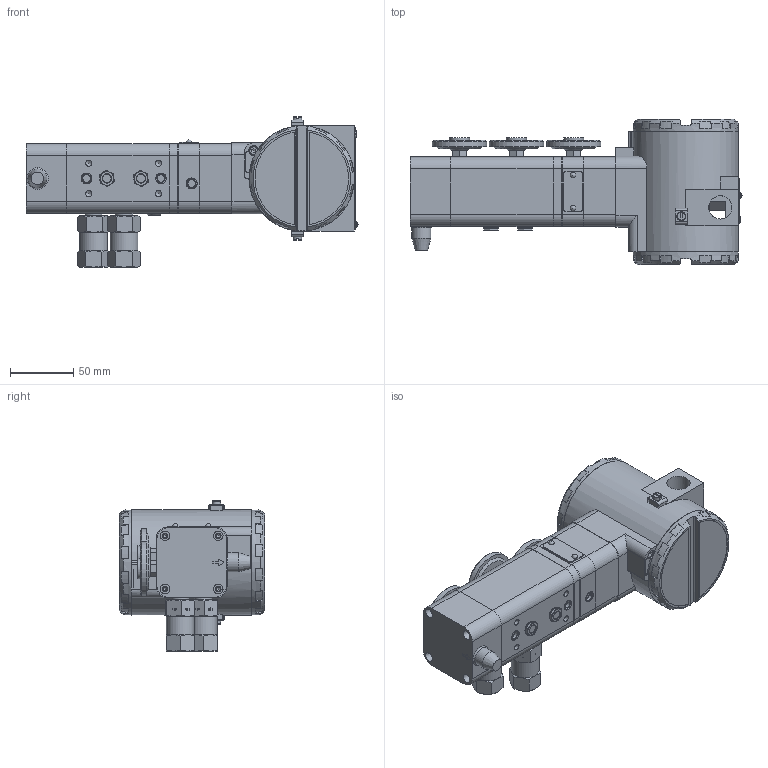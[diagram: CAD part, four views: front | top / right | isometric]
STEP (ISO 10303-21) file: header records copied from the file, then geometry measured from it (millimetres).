
FILE_DESCRIPTION(/* description */ (''),/* implementation_level */ '2;1');
FILE_NAME(/* name */ 'F:\Area\Desenvolvimento_2\Projects\Sensor\projetos\Natasha\Desenho FY\Steps\FY30X_3MAN_SA.stp',/* time_stamp */ '2023-03-02T09:45:58-03:00',/* author */ ('inventor02'),/* organization */ (''),/* preprocessor_version */ 'ST-DEVELOPER v17',/* originating_system */ 'Autodesk Inventor 2019',/* authorisation */ '');
FILE_SCHEMA (('CONFIG_CONTROL_DESIGN'));
Products named in the file (55): Subconjunto FY completo; Subconjunto transdutor; Subconjunto bloco; Bloco usinado; Subconjunto filtro ar 1-4 npt; Conexao traseira 1-4 npt; Elemento filtrante; Conexao frontal 1-4 npt; O-ring da conexao 1-4 npt; Subconjunto vant plug; Vent plug; Filtro vant plug; Subconjunto sealing plugs.0007; Sealing plugs; Sealing plugs sphere; DIN 913 - M12 x 16; Subconjunto do diafragma; Junta superiror diafragma; arruela superior diafragma; Distanciador uniao diafragma; Junta inferior diafragma; Eixo do diafragma; Intermediaria; Subconjunto base; Base usinada; Restricao; Subconjunto sinterizado; Bucha do sinterizado; Sinterizado retificado; Plaqueta sem texto; Rebite U; MANÔMETRO; Subconjunto tampa ligacao; Tampa de ligacao usinada; Subconjunto da Tampa do Hall; Tampa do Hall; Subconjunto transmissor; Subconjunto carcaca transmissor; Carcaca usinada; Chapa aterramento externo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
Assembly tree (68 placements, depth 5):
  Subconjunto FY completo
    Subconjunto transdutor
      Subconjunto bloco
        Bloco usinado
        Subconjunto sinterizado  x2
          Bucha do sinterizado
          Sinterizado retificado
        Subconjunto filtro ar 1-4 npt  x2
          Conexao traseira 1-4 npt
          Elemento filtrante
          Conexao frontal 1-4 npt
          O-ring da conexao 1-4 npt
        Subconjunto vant plug  x2
          Vent plug
          Filtro vant plug
        Subconjunto sealing plugs.0007  x2
          Sealing plugs
          Sealing plugs sphere
        MANÔMETRO  x2
        DIN 913 - M12 x 16
      Subconjunto do diafragma
        Junta superiror diafragma
        arruela superior diafragma
        Distanciador uniao diafragma
        Junta inferior diafragma
        Eixo do diafragma
        Intermediaria
      Subconjunto base
        Base usinada
        Restricao
        Subconjunto sinterizado  x2
          Bucha do sinterizado
          Sinterizado retificado
        Plaqueta sem texto
        Rebite U  x2
        MANÔMETRO
      Subconjunto tampa ligacao
        Tampa de ligacao usinada
      Subconjunto da Tampa do Hall
        Tampa do Hall
    Subconjunto transmissor
      Subconjunto carcaca transmissor
        Carcaca usinada
        Chapa aterramento externo  x2
        ISO 1207 - M4 x 8  x2
        Tampao Z-S  x2
      Subconjunto tampa com visor
        Tampa macho com visor
        VIDRO DO VISOR
        Trava do vidro da tampa com visor
      Subconjunto tampa sem visor
        Tampa macho sem visor_2
      Subconjunto display
      DIN 912 - M4 x 8  x2
      DIN 912 - M4 x 6
      DIN 84 - M3 x 4
      Rebite da Plaqueta
      Subconjunto plaqueta
        Plaqueta transmissor
        Rebite da Plaqueta
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Bounding box: 261.91 x 114.5 x 118.65 mm (x, y, z)
Volume: 794222 mm3; surface area: 297596.6 mm2
Topology: 60 solids, 60 shells, 2700 faces, 7282 edges, 4970 vertices
Faces by surface type: plane 1181, bspline 658, cylinder 537, cone 220, torus 90, sphere 14
Full cylindrical faces by diameter (mm): 1.3 x1, 2 x2, 2.1 x5, 2.11 x2, 2.459 x5, 2.5 x4, 2.54 x4, 2.7 x4, 2.729 x1, 2.8 x2, 3 x3, 3.1 x1, 3.2 x24, 3.242 x16, 3.5 x3, 3.57 x2, 3.6 x1, 3.65 x1, 3.8 x1, 4 x16, 4.2 x1, 4.3 x18, 4.4 x2, 4.5 x9, 4.917 x4, 5.2 x2, 5.3 x4, 5.5 x4, 5.9 x3, 6.3 x4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
Entity records: 59067 total; most frequent: CARTESIAN_POINT 14689, ORIENTED_EDGE 8898, DIRECTION 8650, EDGE_CURVE 4449, AXIS2_PLACEMENT_3D 3328, VERTEX_POINT 3093, EDGE_LOOP 2040, LINE 1994
